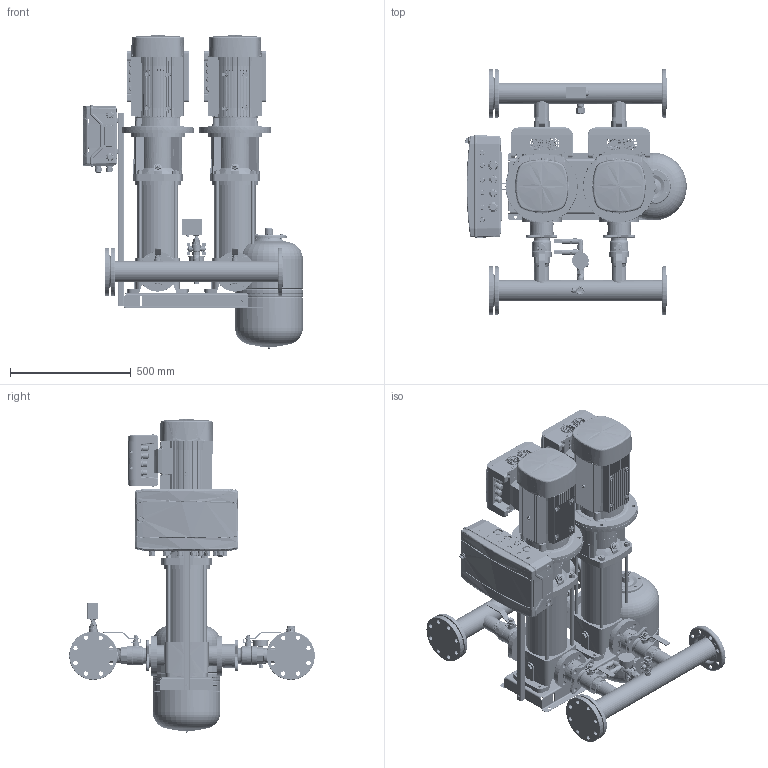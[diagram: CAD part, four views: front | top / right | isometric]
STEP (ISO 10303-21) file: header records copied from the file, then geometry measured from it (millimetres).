
FILE_DESCRIPTION(('CATIA V5 STEP Exchange','CAx-IF Rec.Pracs.--- Model Styling and Organization---1.4--- 2014-01-23','CAx-IF Rec.Pracs.---3D Tessellated Data Validation Properties---0.5---2014-09-14'),'2;1');
FILE_NAME('C:\Users\78432\YandexDisk\Drawings and 3D\3D Hydro Booster\Hydro-ME 3D\Hydro Models\Hydro ME 2 CRV15_20-xx (DIN BV)\Hydro ME 2 CRVE15-7 (DIN BV).stp','2023-09-20T12:33:13+00:00',('none'),('none'),'CATIA Version 5-6 Release 2019 SP6','CATIA V5 STEP AP242 v1','none');
FILE_SCHEMA(('AP242_MANAGED_MODEL_BASED_3D_ENGINEERING_MIM_LF {1 0 10303 442 1 1 4}'));
Length unit declared in the file: millimetre
Products named in the file (44): Hydro ME 2 CRVE15-7 (DIN BV); 92051008; CRV15-7 set (DIN bv); CRV 15-7_A_DIN_5.5kW; Base; Sleeve; Pumphead; Staybolt.1; Staybolt.2; Staybolt.3; Staybolt.4; Plug; AirVent; Motor; 00id2584; 92802785; 99273085; SAJ PDH30 4-7,5kW; 97941445; 405801; 91040270; 91070073; 99110037; 97941482; 00GW4890; Holder and CP 18mod; 92878909; Control ME (18mod); 2 sensors + manometer cpl.; manometr 16 bar; RPD-I-G1_2; 9021-01; 2070 1/2-1/2; _2020 1/2-1/2; 98594078; Tank 24L cpl.; DN20_FF_BF_47.300.20; WAV-24(D140 1''); 9021-03; Relay cpl.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
Assembly tree (54 placements, depth 4):
  Hydro ME 2 CRVE15-7 (DIN BV)
    92051008
    CRV15-7 set (DIN bv)  x2
      CRV 15-7_A_DIN_5.5kW
        Base
        Sleeve
        Pumphead
        Staybolt.1
        Staybolt.2
        Staybolt.3
        Staybolt.4
        Plug
        AirVent
        Motor
      00id2584
      92802785
      99273085
      SAJ PDH30 4-7,5kW
    97941445  x2
      405801
      91040270
      91070073
      99110037
      97941482
    00GW4890  x2
    Holder and CP 18mod
      92878909
      Control ME (18mod)
    2 sensors + manometer cpl.
      manometr 16 bar
      RPD-I-G1_2  x2
      9021-01
      2070 1/2-1/2
      _2020 1/2-1/2
      98594078
    Tank 24L cpl.
      DN20_FF_BF_47.300.20
      9021-03
    Relay cpl.
      Relay RD-2R
      DN20_FF_BF_47.300.20
      2530 3/4-1/2
      _2530 1/2-1/4
    91078139
  WAV-24(D140 1'')
Bounding box: 916.82 x 1016.5 x 1296.77 mm (x, y, z)
Volume: 99818619.4 mm3; surface area: 9367979.7 mm2
Topology: 232 solids, 260 shells, 24099 faces, 79030 edges, 56194 vertices
Faces by surface type: plane 10008, cylinder 6441, bspline 5360, cone 1647, torus 478, sphere 165
Entity records: 686615 total; most frequent: CARTESIAN_POINT 355801, ORIENTED_EDGE 86419, EDGE_CURVE 43750, DIRECTION 38086, VERTEX_POINT 30079, B_SPLINE_CURVE_WITH_KNOTS 18536, VECTOR 17937, LINE 17937
